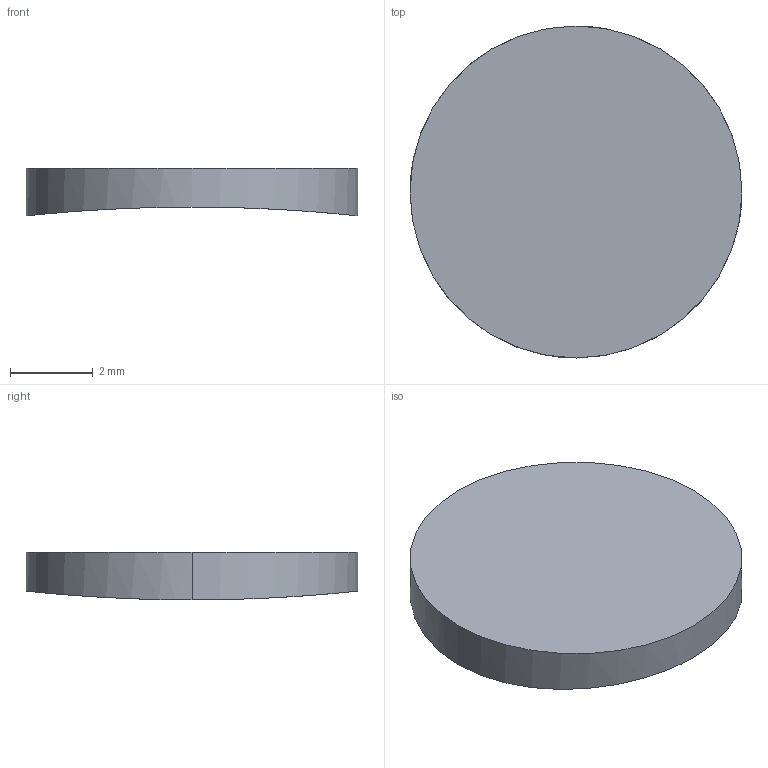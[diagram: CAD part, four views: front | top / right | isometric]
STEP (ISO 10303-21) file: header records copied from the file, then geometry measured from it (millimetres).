
FILE_DESCRIPTION (( 'STEP AP214' ), '1' );
FILE_NAME ('tampa_pequena_rolamento.STEP', '2026-11-19T20:07:43', ( '' ), ( '' ), 'SwSTEP 2.0', 'SolidWorks 2026', '' );
FILE_SCHEMA (( 'AUTOMOTIVE_DESIGN' ));
Length unit declared in the file: millimetre
Products named in the file (1): tampa_pequena_rolamento
Bounding box: 8 x 8 x 1.15 mm (x, y, z)
Volume: 49.9 mm3; surface area: 126.9 mm2
Topology: 1 solids, 1 shells, 5 faces, 9 edges, 6 vertices
Faces by surface type: cylinder 4, plane 1
Entity records: 208 total; most frequent: CARTESIAN_POINT 89, DIRECTION 19, ORIENTED_EDGE 18, EDGE_CURVE 9, AXIS2_PLACEMENT_3D 8, VERTEX_POINT 6, EDGE_LOOP 5, ADVANCED_FACE 5
